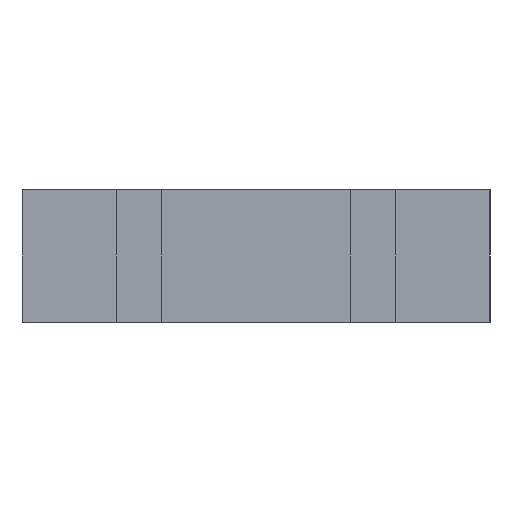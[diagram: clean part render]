
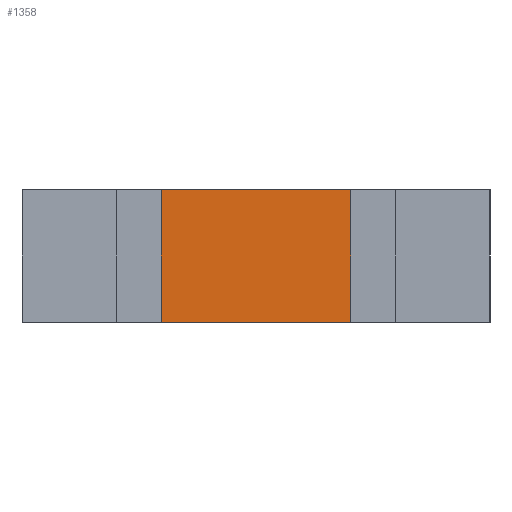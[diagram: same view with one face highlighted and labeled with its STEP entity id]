
A CAD part, left-side view. The second image highlights one B-rep face of the part: STEP entity #1358.
In plain terms, the highlighted planar face has unit normal (-1, 0, 0).
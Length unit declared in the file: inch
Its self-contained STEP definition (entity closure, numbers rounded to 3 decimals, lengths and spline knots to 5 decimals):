
#1302=CARTESIAN_POINT('',(-1.77165,-0.7185,1.0));
#1303=VERTEX_POINT('',#1302);
#1310=CARTESIAN_POINT('',(-1.77165,-0.7185,0.0));
#1311=VERTEX_POINT('',#1310);
#1312=CARTESIAN_POINT('',(-1.77165,-0.7185,0.0));
#1313=DIRECTION('',(0.0,0.0,1.0));
#1314=VECTOR('',#1313,1.0);
#1315=LINE('',#1312,#1314);
#1316=EDGE_CURVE('',#1311,#1303,#1315,.T.);
#1328=CARTESIAN_POINT('',(-1.77165,-0.7185,0.0));
#1329=DIRECTION('',(-1.0,0.0,0.0));
#1330=DIRECTION('',(0.0,0.0,1.0));
#1331=AXIS2_PLACEMENT_3D('',#1328,#1329,#1330);
#1332=PLANE('',#1331);
#1333=CARTESIAN_POINT('',(-1.77165,0.7185,1.0));
#1334=VERTEX_POINT('',#1333);
#1335=CARTESIAN_POINT('',(-1.77165,-0.7185,1.0));
#1336=DIRECTION('',(0.0,1.0,0.0));
#1337=VECTOR('',#1336,1.437);
#1338=LINE('',#1335,#1337);
#1339=EDGE_CURVE('',#1303,#1334,#1338,.T.);
#1340=ORIENTED_EDGE('',*,*,#1339,.T.);
#1341=CARTESIAN_POINT('',(-1.77165,0.7185,0.0));
#1342=VERTEX_POINT('',#1341);
#1343=CARTESIAN_POINT('',(-1.77165,0.7185,0.0));
#1344=DIRECTION('',(0.0,0.0,1.0));
#1345=VECTOR('',#1344,1.0);
#1346=LINE('',#1343,#1345);
#1347=EDGE_CURVE('',#1342,#1334,#1346,.T.);
#1348=ORIENTED_EDGE('',*,*,#1347,.F.);
#1349=CARTESIAN_POINT('',(-1.77165,0.7185,0.0));
#1350=DIRECTION('',(0.0,-1.0,0.0));
#1351=VECTOR('',#1350,1.437);
#1352=LINE('',#1349,#1351);
#1353=EDGE_CURVE('',#1342,#1311,#1352,.T.);
#1354=ORIENTED_EDGE('',*,*,#1353,.T.);
#1355=ORIENTED_EDGE('',*,*,#1316,.T.);
#1356=EDGE_LOOP('',(#1340,#1348,#1354,#1355));
#1357=FACE_OUTER_BOUND('',#1356,.T.);
#1358=ADVANCED_FACE('',(#1357),#1332,.T.);
